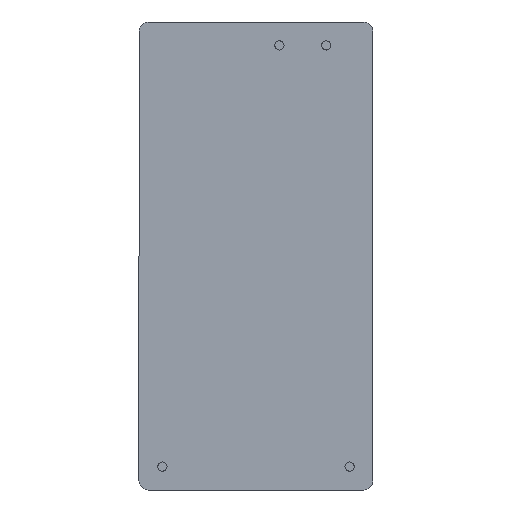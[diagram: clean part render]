
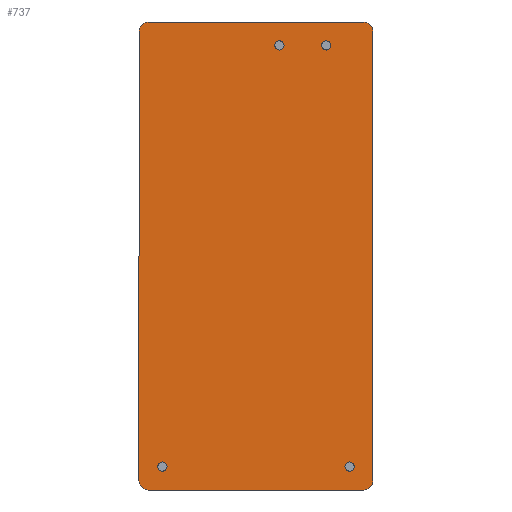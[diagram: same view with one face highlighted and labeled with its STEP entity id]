
A CAD part, front view. The second image highlights one B-rep face of the part: STEP entity #737.
In plain terms, the highlighted planar face has unit normal (0, -1, 0).
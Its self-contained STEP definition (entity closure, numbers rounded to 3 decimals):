
#2 = AXIS2_PLACEMENT_3D ( 'NONE', #42, #564, #758 ) ;
#3 = CIRCLE ( 'NONE', #288, 0.5 ) ;
#4 = EDGE_CURVE ( 'NONE', #131, #129, #832, .T. ) ;
#13 = AXIS2_PLACEMENT_3D ( 'NONE', #382, #638, #497 ) ;
#20 = EDGE_CURVE ( 'NONE', #584, #544, #625, .T. ) ;
#23 = CARTESIAN_POINT ( 'NONE',  ( -12.7, 0., -25.4 ) ) ;
#26 = CARTESIAN_POINT ( 'NONE',  ( -11.7, 0., -25.4 ) ) ;
#29 = CARTESIAN_POINT ( 'NONE',  ( 11.7, 0., 25.4 ) ) ;
#30 = LINE ( 'NONE', #23, #810 ) ;
#31 = DIRECTION ( 'NONE',  ( 0., 0., 1. ) ) ;
#33 = DIRECTION ( 'NONE',  ( 0., -1., 0. ) ) ;
#37 = FACE_OUTER_BOUND ( 'NONE', #639, .T. ) ;
#42 = CARTESIAN_POINT ( 'NONE',  ( -11.7, 0., 24.4 ) ) ;
#48 = CARTESIAN_POINT ( 'NONE',  ( 7.62, 0., 23.36 ) ) ;
#49 = EDGE_LOOP ( 'NONE', ( #259, #335 ) ) ;
#57 = CIRCLE ( 'NONE', #679, 0.5 ) ;
#59 = DIRECTION ( 'NONE',  ( 0., 0., 1. ) ) ;
#81 = EDGE_CURVE ( 'NONE', #125, #760, #298, .T. ) ;
#83 = CARTESIAN_POINT ( 'NONE',  ( 7.62, 0., 22.86 ) ) ;
#91 = DIRECTION ( 'NONE',  ( 0., -1., 0. ) ) ;
#94 = CARTESIAN_POINT ( 'NONE',  ( 7.62, 0., 22.86 ) ) ;
#97 = AXIS2_PLACEMENT_3D ( 'NONE', #162, #151, #426 ) ;
#107 = CARTESIAN_POINT ( 'NONE',  ( 12.7, 0., -25.4 ) ) ;
#109 = VECTOR ( 'NONE', #688, 1000. ) ;
#113 = EDGE_CURVE ( 'NONE', #646, #262, #597, .T. ) ;
#114 = DIRECTION ( 'NONE',  ( 0., -1., 0. ) ) ;
#117 = EDGE_CURVE ( 'NONE', #125, #306, #826, .T. ) ;
#118 = CARTESIAN_POINT ( 'NONE',  ( -12.7, 0., 24.4 ) ) ;
#121 = FACE_BOUND ( 'NONE', #241, .T. ) ;
#125 = VERTEX_POINT ( 'NONE', #858 ) ;
#129 = VERTEX_POINT ( 'NONE', #118 ) ;
#131 = VERTEX_POINT ( 'NONE', #706 ) ;
#146 = EDGE_CURVE ( 'NONE', #646, #760, #576, .T. ) ;
#151 = DIRECTION ( 'NONE',  ( 0., -1., 0. ) ) ;
#156 = LINE ( 'NONE', #359, #109 ) ;
#162 = CARTESIAN_POINT ( 'NONE',  ( 10.16, 0., -22.86 ) ) ;
#175 = ORIENTED_EDGE ( 'NONE', *, *, #585, .F. ) ;
#186 = FACE_BOUND ( 'NONE', #49, .T. ) ;
#194 = AXIS2_PLACEMENT_3D ( 'NONE', #94, #294, #813 ) ;
#196 = ORIENTED_EDGE ( 'NONE', *, *, #308, .F. ) ;
#215 = VECTOR ( 'NONE', #314, 1000. ) ;
#236 = ORIENTED_EDGE ( 'NONE', *, *, #682, .F. ) ;
#241 = EDGE_LOOP ( 'NONE', ( #175, #236 ) ) ;
#244 = VERTEX_POINT ( 'NONE', #472 ) ;
#250 = DIRECTION ( 'NONE',  ( 0., -1., 0. ) ) ;
#259 = ORIENTED_EDGE ( 'NONE', *, *, #851, .F. ) ;
#262 = VERTEX_POINT ( 'NONE', #29 ) ;
#264 = ORIENTED_EDGE ( 'NONE', *, *, #113, .T. ) ;
#265 = EDGE_CURVE ( 'NONE', #378, #395, #461, .T. ) ;
#284 = DIRECTION ( 'NONE',  ( 0., 0., 1. ) ) ;
#288 = AXIS2_PLACEMENT_3D ( 'NONE', #551, #757, #284 ) ;
#294 = DIRECTION ( 'NONE',  ( 0., -1., 0. ) ) ;
#297 = DIRECTION ( 'NONE',  ( 0., 1., 0. ) ) ;
#298 = CIRCLE ( 'NONE', #409, 1. ) ;
#305 = CARTESIAN_POINT ( 'NONE',  ( 7.62, 0., 22.36 ) ) ;
#306 = VERTEX_POINT ( 'NONE', #26 ) ;
#308 = EDGE_CURVE ( 'NONE', #131, #262, #156, .T. ) ;
#314 = DIRECTION ( 'NONE',  ( -1., 0., 0. ) ) ;
#321 = VECTOR ( 'NONE', #788, 1000. ) ;
#323 = EDGE_CURVE ( 'NONE', #485, #421, #3, .T. ) ;
#324 = PLANE ( 'NONE',  #596 ) ;
#329 = EDGE_CURVE ( 'NONE', #421, #485, #582, .T. ) ;
#330 = ORIENTED_EDGE ( 'NONE', *, *, #329, .F. ) ;
#335 = ORIENTED_EDGE ( 'NONE', *, *, #20, .F. ) ;
#353 = DIRECTION ( 'NONE',  ( 0., 0., 1. ) ) ;
#356 = CARTESIAN_POINT ( 'NONE',  ( 2.54, 0., 22.36 ) ) ;
#358 = CARTESIAN_POINT ( 'NONE',  ( -12.7, 0., -24.4 ) ) ;
#359 = CARTESIAN_POINT ( 'NONE',  ( -12.7, 0., 25.4 ) ) ;
#365 = AXIS2_PLACEMENT_3D ( 'NONE', #681, #33, #353 ) ;
#371 = ORIENTED_EDGE ( 'NONE', *, *, #599, .F. ) ;
#378 = VERTEX_POINT ( 'NONE', #48 ) ;
#380 = DIRECTION ( 'NONE',  ( 0., 0., 1. ) ) ;
#382 = CARTESIAN_POINT ( 'NONE',  ( -10.16, 0., -22.86 ) ) ;
#387 = CARTESIAN_POINT ( 'NONE',  ( 2.54, 0., 22.86 ) ) ;
#393 = CIRCLE ( 'NONE', #13, 0.5 ) ;
#395 = VERTEX_POINT ( 'NONE', #305 ) ;
#397 = CARTESIAN_POINT ( 'NONE',  ( 10.16, 0., -22.36 ) ) ;
#409 = AXIS2_PLACEMENT_3D ( 'NONE', #624, #114, #380 ) ;
#419 = CARTESIAN_POINT ( 'NONE',  ( -11.7, 0., -24.4 ) ) ;
#421 = VERTEX_POINT ( 'NONE', #397 ) ;
#424 = ORIENTED_EDGE ( 'NONE', *, *, #4, .T. ) ;
#426 = DIRECTION ( 'NONE',  ( 0., 0., 1. ) ) ;
#445 = ORIENTED_EDGE ( 'NONE', *, *, #146, .F. ) ;
#446 = ORIENTED_EDGE ( 'NONE', *, *, #519, .F. ) ;
#447 = FACE_BOUND ( 'NONE', #724, .T. ) ;
#454 = CIRCLE ( 'NONE', #579, 0.5 ) ;
#461 = CIRCLE ( 'NONE', #194, 0.5 ) ;
#472 = CARTESIAN_POINT ( 'NONE',  ( -10.16, 0., -22.36 ) ) ;
#485 = VERTEX_POINT ( 'NONE', #539 ) ;
#497 = DIRECTION ( 'NONE',  ( 0., 0., 1. ) ) ;
#500 = ORIENTED_EDGE ( 'NONE', *, *, #81, .T. ) ;
#501 = CIRCLE ( 'NONE', #800, 1. ) ;
#506 = CARTESIAN_POINT ( 'NONE',  ( -12.7, 0., -25.4 ) ) ;
#508 = DIRECTION ( 'NONE',  ( 0., 0., 1. ) ) ;
#510 = EDGE_CURVE ( 'NONE', #802, #306, #501, .T. ) ;
#518 = AXIS2_PLACEMENT_3D ( 'NONE', #387, #834, #59 ) ;
#519 = EDGE_CURVE ( 'NONE', #395, #378, #57, .T. ) ;
#539 = CARTESIAN_POINT ( 'NONE',  ( 10.16, 0., -23.36 ) ) ;
#544 = VERTEX_POINT ( 'NONE', #680 ) ;
#549 = ORIENTED_EDGE ( 'NONE', *, *, #510, .T. ) ;
#551 = CARTESIAN_POINT ( 'NONE',  ( 10.16, 0., -22.86 ) ) ;
#553 = DIRECTION ( 'NONE',  ( 0., 0., 1. ) ) ;
#559 = CARTESIAN_POINT ( 'NONE',  ( -10.16, 0., -23.36 ) ) ;
#564 = DIRECTION ( 'NONE',  ( 0., -1., 0. ) ) ;
#565 = CARTESIAN_POINT ( 'NONE',  ( 12.7, 0., 24.4 ) ) ;
#566 = EDGE_LOOP ( 'NONE', ( #330, #794 ) ) ;
#567 = CIRCLE ( 'NONE', #365, 0.5 ) ;
#576 = LINE ( 'NONE', #107, #321 ) ;
#579 = AXIS2_PLACEMENT_3D ( 'NONE', #611, #819, #31 ) ;
#582 = CIRCLE ( 'NONE', #97, 0.5 ) ;
#584 = VERTEX_POINT ( 'NONE', #356 ) ;
#585 = EDGE_CURVE ( 'NONE', #244, #725, #454, .T. ) ;
#589 = ORIENTED_EDGE ( 'NONE', *, *, #265, .F. ) ;
#596 = AXIS2_PLACEMENT_3D ( 'NONE', #827, #297, #553 ) ;
#597 = CIRCLE ( 'NONE', #659, 1. ) ;
#599 = EDGE_CURVE ( 'NONE', #802, #129, #30, .T. ) ;
#611 = CARTESIAN_POINT ( 'NONE',  ( -10.16, 0., -22.86 ) ) ;
#624 = CARTESIAN_POINT ( 'NONE',  ( 11.7, 0., -24.4 ) ) ;
#625 = CIRCLE ( 'NONE', #518, 0.5 ) ;
#638 = DIRECTION ( 'NONE',  ( 0., -1., 0. ) ) ;
#639 = EDGE_LOOP ( 'NONE', ( #371, #549, #776, #500, #445, #264, #196, #424 ) ) ;
#646 = VERTEX_POINT ( 'NONE', #565 ) ;
#659 = AXIS2_PLACEMENT_3D ( 'NONE', #850, #250, #508 ) ;
#679 = AXIS2_PLACEMENT_3D ( 'NONE', #83, #91, #743 ) ;
#680 = CARTESIAN_POINT ( 'NONE',  ( 2.54, 0., 23.36 ) ) ;
#681 = CARTESIAN_POINT ( 'NONE',  ( 2.54, 0., 22.86 ) ) ;
#682 = EDGE_CURVE ( 'NONE', #725, #244, #393, .T. ) ;
#685 = DIRECTION ( 'NONE',  ( 0., 0., 1. ) ) ;
#686 = DIRECTION ( 'NONE',  ( 0., -1., 0. ) ) ;
#688 = DIRECTION ( 'NONE',  ( 1., 0., 0. ) ) ;
#696 = CARTESIAN_POINT ( 'NONE',  ( 12.7, 0., -24.4 ) ) ;
#706 = CARTESIAN_POINT ( 'NONE',  ( -11.7, 0., 25.4 ) ) ;
#724 = EDGE_LOOP ( 'NONE', ( #589, #446 ) ) ;
#725 = VERTEX_POINT ( 'NONE', #559 ) ;
#737 = ADVANCED_FACE ( 'NONE', ( #186, #447, #121, #751, #37 ), #324, .F. ) ;
#743 = DIRECTION ( 'NONE',  ( 0., 0., 1. ) ) ;
#751 = FACE_BOUND ( 'NONE', #566, .T. ) ;
#757 = DIRECTION ( 'NONE',  ( 0., -1., 0. ) ) ;
#758 = DIRECTION ( 'NONE',  ( 0., 0., 1. ) ) ;
#760 = VERTEX_POINT ( 'NONE', #696 ) ;
#776 = ORIENTED_EDGE ( 'NONE', *, *, #117, .F. ) ;
#788 = DIRECTION ( 'NONE',  ( 0., 0., -1. ) ) ;
#794 = ORIENTED_EDGE ( 'NONE', *, *, #323, .F. ) ;
#800 = AXIS2_PLACEMENT_3D ( 'NONE', #419, #686, #815 ) ;
#802 = VERTEX_POINT ( 'NONE', #358 ) ;
#810 = VECTOR ( 'NONE', #685, 1000. ) ;
#813 = DIRECTION ( 'NONE',  ( 0., 0., 1. ) ) ;
#815 = DIRECTION ( 'NONE',  ( 0., 0., 1. ) ) ;
#819 = DIRECTION ( 'NONE',  ( 0., -1., 0. ) ) ;
#826 = LINE ( 'NONE', #506, #215 ) ;
#827 = CARTESIAN_POINT ( 'NONE',  ( 0., 0., 0. ) ) ;
#832 = CIRCLE ( 'NONE', #2, 1. ) ;
#834 = DIRECTION ( 'NONE',  ( 0., -1., 0. ) ) ;
#850 = CARTESIAN_POINT ( 'NONE',  ( 11.7, 0., 24.4 ) ) ;
#851 = EDGE_CURVE ( 'NONE', #544, #584, #567, .T. ) ;
#858 = CARTESIAN_POINT ( 'NONE',  ( 11.7, 0., -25.4 ) ) ;
